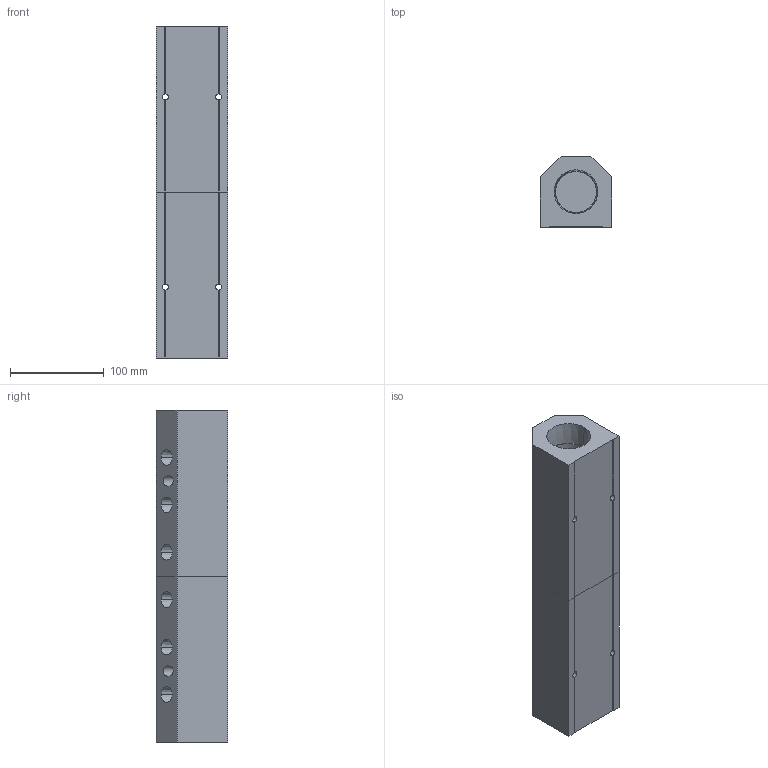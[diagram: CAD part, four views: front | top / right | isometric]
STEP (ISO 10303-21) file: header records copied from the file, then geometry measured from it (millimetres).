
FILE_DESCRIPTION (( 'STEP AP214' ), '1' );
FILE_NAME ('ALM6BCD-N6N24-355RB.step', '2022-02-07T09:16:06', ( '' ), ( '' ), 'SwSTEP 2.0', 'SolidWorks 2020', '' );
FILE_SCHEMA (( 'AUTOMOTIVE_DESIGN' ));
Length unit declared in the file: millimetre
Products named in the file (1): ALM6BCD-N6N24-355RB
Bounding box: 76.2 x 76.2 x 355 mm (x, y, z)
Volume: 1261150.1 mm3; surface area: 182560.8 mm2
Topology: 2 solids, 2 shells, 389 faces, 1030 edges, 684 vertices
Faces by surface type: plane 236, bspline 93, cone 40, cylinder 20
Entity records: 22974 total; most frequent: CARTESIAN_POINT 10199, ORIENTED_EDGE 2060, DIRECTION 1462, EDGE_CURVE 1030, LINE 716, VECTOR 716, VERTEX_POINT 684, EDGE_LOOP 472
